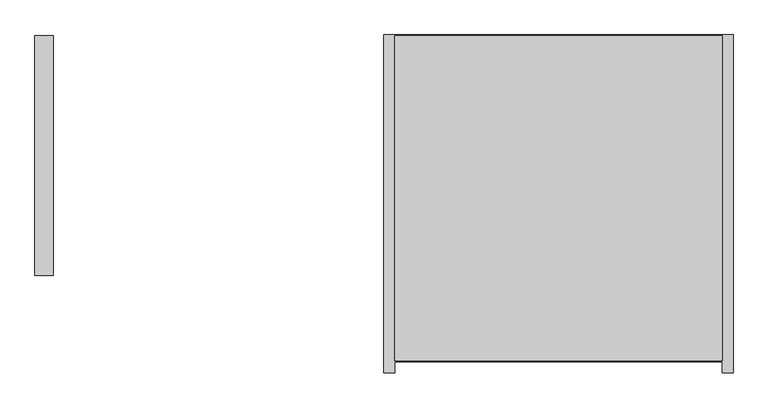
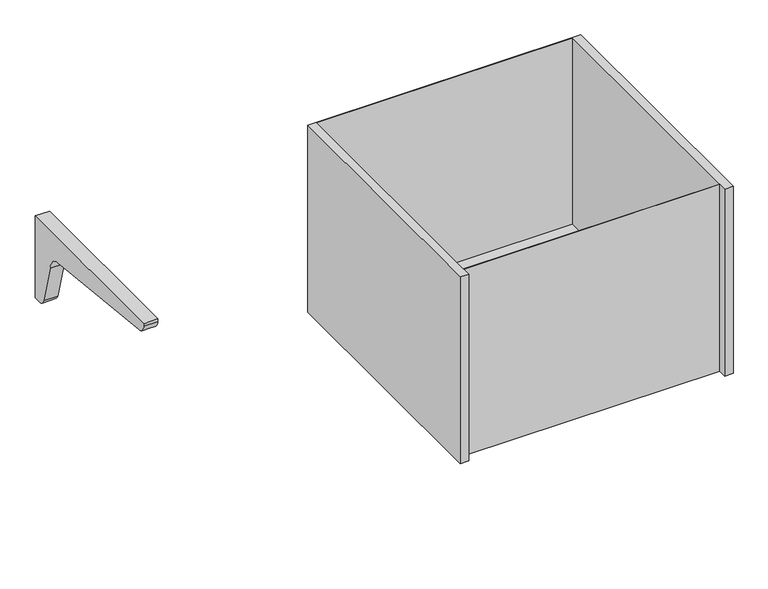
"""IFC4 building model written with IfcOpenShell, lengths in millimetres: furniture geometry."""

import ifcopenshell
import ifcopenshell.guid

model = None  # the IFC model being written
_history = None  # IfcOwnerHistory: only IFC2X3 demands one
_inside = {}  # id of a spatial element -> (the spatial element, [elements in it])
_under = {}  # id of a project, library or spatial element -> (it, [spatial elements below it])
_declared = {}  # id of a project -> (the project, [libraries it declares])
_typed = {}  # id of a type object -> (the type object, [elements of that type])
_made_of = {}  # id of a material, layer set ... -> (it, [elements and type objects made of it])


def new_model(schema):
    """Start an empty IFC model of exactly this schema.

    Asked for "IFC4X3", IfcOpenShell would pick the latest addendum, in which some entities
    have other attributes; the version numbers below select the first issue.
    IFC2X3 requires an IfcOwnerHistory on every rooted entity: one is made here for all.
    """
    global model, _history
    if schema == "IFC4X3":
        model = ifcopenshell.file(schema_version=(4, 3, 0, 0))
    else:
        model = ifcopenshell.file(schema=schema)
    _inside.clear()
    _under.clear()
    _declared.clear()
    _typed.clear()
    _made_of.clear()
    _history = None
    if model.schema == "IFC2X3":
        org = make("IfcOrganization", Name="unknown")
        user = make(
            "IfcPersonAndOrganization",
            ThePerson=make("IfcPerson", FamilyName="unknown"),
            TheOrganization=org,
        )
        app = make(
            "IfcApplication",
            ApplicationDeveloper=org,
            Version="unknown",
            ApplicationFullName="unknown",
            ApplicationIdentifier="unknown",
        )
        _history = make(
            "IfcOwnerHistory",
            OwningUser=user,
            OwningApplication=app,
            ChangeAction="ADDED",
            CreationDate=0,
        )
    return model


def make(cls, **values):
    """One entity of the class cls with the attributes given. An attribute that is None is left unset."""
    return model.create_entity(
        cls, **{name: value for name, value in values.items() if value is not None}
    )


def rooted(cls, **values):
    """An entity with a GlobalId (a new one), such as an element, a storey or a relation."""
    return make(cls, GlobalId=ifcopenshell.guid.new(), OwnerHistory=_history, **values)


def si_unit(unit_type, name, prefix=None):
    """IfcSIUnit, for example si_unit("LENGTHUNIT", "METRE", prefix="MILLI")."""
    return make("IfcSIUnit", UnitType=unit_type, Prefix=prefix, Name=name)


def assignment(units):
    """IfcUnitAssignment: the units of a project."""
    return None if units is None else make("IfcUnitAssignment", Units=units)


def point(xyz):
    """IfcCartesianPoint."""
    return None if xyz is None else make("IfcCartesianPoint", Coordinates=xyz)


def direction(xyz):
    """IfcDirection."""
    return None if xyz is None else make("IfcDirection", DirectionRatios=xyz)


def frame(location, z_axis=None, x_axis=None):
    """IfcAxis2Placement3D, a coordinate frame: its origin and axes. An axis left out is left unset."""
    return make(
        "IfcAxis2Placement3D",
        Location=point(location),
        Axis=direction(z_axis),
        RefDirection=direction(x_axis),
    )


def frame_2d(location, x_axis=None):
    """IfcAxis2Placement2D, a coordinate frame in the plane: its origin and x axis."""
    return make(
        "IfcAxis2Placement2D", Location=point(location), RefDirection=direction(x_axis)
    )


def origin():
    """The frame at (0, 0, 0) with its axes left unset."""
    return frame((0.0, 0.0, 0.0))


def place(relative_to, where):
    """IfcLocalPlacement: puts the frame where relative to a parent placement (None: the world)."""
    return make(
        "IfcLocalPlacement", PlacementRelTo=relative_to, RelativePlacement=where
    )


def context(
    kind, dimensions, precision=None, world=None, true_north=None, identifier=None
):
    """IfcGeometricRepresentationContext, for example the 3D "Model" context."""
    return make(
        "IfcGeometricRepresentationContext",
        ContextIdentifier=identifier,
        ContextType=kind,
        CoordinateSpaceDimension=dimensions,
        Precision=precision,
        WorldCoordinateSystem=world,
        TrueNorth=true_north,
    )


def project(units=None, contexts=None):
    """IfcProject with its units and contexts."""
    return rooted(
        "IfcProject",
        Name="project",
        RepresentationContexts=contexts,
        UnitsInContext=assignment(units),
    )


def spatial(cls, under=None, at=None, **own):
    """A site, building, storey or space (cls), placed at a placement, below another one or the project."""
    s = rooted(cls, ObjectPlacement=at, **own)
    if under is not None:
        _under.setdefault(under.id(), (under, []))[1].append(s)
    return s


def polyline(points):
    """IfcPolyline through the points."""
    return make("IfcPolyline", Points=[point(p) for p in points])


def circle_curve(where, radius):
    """IfcCircle in the frame where."""
    return make("IfcCircle", Position=where, Radius=radius)


def trimmed(basis, trim1, trim2, sense, master):
    """IfcTrimmedCurve: the piece of a basis curve between two trims."""
    return make(
        "IfcTrimmedCurve",
        BasisCurve=basis,
        Trim1=trim1,
        Trim2=trim2,
        SenseAgreement=sense,
        MasterRepresentation=master,
    )


def segment(curve, same_sense, transition):
    """IfcCompositeCurveSegment."""
    return make(
        "IfcCompositeCurveSegment",
        Transition=transition,
        SameSense=same_sense,
        ParentCurve=curve,
    )


def composite_curve(segments, self_intersect=None):
    """IfcCompositeCurve: segments joined end to end."""
    return make("IfcCompositeCurve", Segments=segments, SelfIntersect=self_intersect)


def outline(outer, holes=None, kind="AREA"):
    """IfcArbitraryClosedProfileDef: a profile drawn as a closed curve; with holes, ...WithVoids."""
    if holes is None:
        return make("IfcArbitraryClosedProfileDef", ProfileType=kind, OuterCurve=outer)
    return make(
        "IfcArbitraryProfileDefWithVoids",
        ProfileType=kind,
        OuterCurve=outer,
        InnerCurves=holes,
    )


def extrude(swept, where, along, depth):
    """IfcExtrudedAreaSolid: the profile swept, set in the frame where, extruded along a direction by depth."""
    return make(
        "IfcExtrudedAreaSolid",
        SweptArea=swept,
        Position=where,
        ExtrudedDirection=direction(along),
        Depth=depth,
    )


def faces_of(points, faces, orient=None, outer=None):
    """IfcFace entities. A face is a list of loops; a loop is a list of indices into points, from 0.

    orient and outer hold one flag for each loop. By default every Orientation is true, the
    first loop of a face is its IfcFaceOuterBound and the others are IfcFaceBound.
    """
    made = []
    for i, loops in enumerate(faces):
        bounds = []
        for j, loop in enumerate(loops):
            is_outer = j == 0 if outer is None else outer[i][j]
            bounds.append(
                make(
                    "IfcFaceOuterBound" if is_outer else "IfcFaceBound",
                    Bound=make("IfcPolyLoop", Polygon=[points[k] for k in loop]),
                    Orientation=True if orient is None else orient[i][j],
                )
            )
        made.append(make("IfcFace", Bounds=bounds))
    return made


def faceted_brep(points, faces, orient=None, outer=None, voids=None):
    """IfcFacetedBrep: a solid bounded by flat faces; with voids (closed shells), ...WithVoids."""
    shared = [point(p) for p in points]
    hull = make("IfcClosedShell", CfsFaces=faces_of(shared, faces, orient, outer))
    if voids is None:
        return make("IfcFacetedBrep", Outer=hull)
    return make(
        "IfcFacetedBrepWithVoids",
        Outer=hull,
        Voids=[
            make(cls, CfsFaces=faces_of(shared, fs, o, b)) for cls, fs, o, b in voids
        ],
    )


def shape(context_of_items, identifier, shape_type, items):
    """IfcShapeRepresentation: the items that make up one representation, for example the "Body"."""
    return make(
        "IfcShapeRepresentation",
        ContextOfItems=context_of_items,
        RepresentationIdentifier=identifier,
        RepresentationType=shape_type,
        Items=items,
    )


def source(mapping_origin, context_of_items, identifier, shape_type, items):
    """IfcRepresentationMap: a shape defined once, which mapped items show again and again."""
    return make(
        "IfcRepresentationMap",
        MappingOrigin=mapping_origin,
        MappedRepresentation=shape(context_of_items, identifier, shape_type, items),
    )


def transform(
    local_origin,
    x_axis=None,
    y_axis=None,
    z_axis=None,
    scale=None,
    scale2=None,
    scale3=None,
    uniform=True,
):
    """IfcCartesianTransformationOperator3D, or its non-uniform kind. x_axis, y_axis, z_axis: its Axis1, 2, 3."""
    if uniform:
        return make(
            "IfcCartesianTransformationOperator3D",
            Axis1=direction(x_axis),
            Axis2=direction(y_axis),
            LocalOrigin=point(local_origin),
            Scale=scale,
            Axis3=direction(z_axis),
        )
    return make(
        "IfcCartesianTransformationOperator3DnonUniform",
        Axis1=direction(x_axis),
        Axis2=direction(y_axis),
        LocalOrigin=point(local_origin),
        Scale=scale,
        Axis3=direction(z_axis),
        Scale2=scale2,
        Scale3=scale3,
    )


def mapped(mapping_source, mapping_target):
    """IfcMappedItem: shows the shape of a source again, moved by a transform."""
    return make(
        "IfcMappedItem", MappingSource=mapping_source, MappingTarget=mapping_target
    )


def made_of(thing, what):
    """Note that an element or type object is made of a material, layer set ...; save() writes the relation."""
    if what is not None:
        _made_of.setdefault(what.id(), (what, []))[1].append(thing)
    return thing


def element(
    cls,
    number,
    at=None,
    inside=None,
    cuts=None,
    type_object=None,
    material=None,
    context=None,
    identifier="Body",
    shape_type=None,
    held_by="IfcProductDefinitionShape",
    body=None,
    shapes=None,
    **own,
):
    """One element of the class cls, such as IfcWall. Its Tag is "e" and its number.

    at: its placement. inside: the storey or other place that contains it. cuts: it is an
    opening in that element (IfcRelVoidsElement). A single representation is given by context,
    identifier, shape_type and body (its items); several are given by shapes. held_by: the class
    of the entity that holds the representations. save() writes the other relations.
    """
    e = rooted(cls, Tag="e%d" % number, ObjectPlacement=at, **own)
    if body is not None:
        shapes = [shape(context, identifier, shape_type, body)]
    if shapes is not None:
        e.Representation = make(held_by, Representations=shapes)
    if inside is not None:
        _inside.setdefault(inside.id(), (inside, []))[1].append(e)
    if cuts is not None:
        rooted(
            "IfcRelVoidsElement", RelatingBuildingElement=cuts, RelatedOpeningElement=e
        )
    if type_object is not None:
        _typed.setdefault(type_object.id(), (type_object, []))[1].append(e)
    return made_of(e, material)


def aggregate(whole, parts):
    """IfcRelAggregates: a whole, such as a stair, and the parts it consists of."""
    return rooted("IfcRelAggregates", RelatingObject=whole, RelatedObjects=parts)


def save(model, path):
    """Write the relations noted so far, then the file.

    IfcRelAggregates (storeys below a building ...), IfcRelContainedInSpatialStructure (elements
    in a storey), IfcRelDefinesByType, IfcRelAssociatesMaterial and IfcRelDeclares: one each for
    every whole, place, type object, material and project.
    """
    for whole, parts in _under.values():
        aggregate(whole, parts)
    for where, things in _inside.values():
        rooted(
            "IfcRelContainedInSpatialStructure",
            RelatedElements=things,
            RelatingStructure=where,
        )
    for kind, things in _typed.values():
        rooted("IfcRelDefinesByType", RelatedObjects=things, RelatingType=kind)
    for what, things in _made_of.values():
        rooted("IfcRelAssociatesMaterial", RelatedObjects=things, RelatingMaterial=what)
    for by, libraries in _declared.values():
        rooted("IfcRelDeclares", RelatingContext=by, RelatedDefinitions=libraries)
    model.write(path)


def furniture_067cfaca(model_context):
    return source(origin(), model_context, "Body", "SolidModel", [
        extrude(outline(composite_curve([segment(polyline([(166.6875, 914.4), (166.6875, 720.725), (153.9875, 720.725)]), True, "CONTINUOUS"), segment(trimmed(circle_curve(frame_2d((151.6706081, 737.8871622)), 17.3178462), [point((153.9875, 720.725))], [point((134.9375, 733.425))], False, "CARTESIAN"), True, "CONTINUOUS"), segment(polyline([(134.9375, 733.425), (109.5375, 825.5)]), True, "CONTINUOUS"), segment(trimmed(circle_curve(frame_2d((74.1795455, 821.8920455)), 35.5415572), [point((109.5375, 825.5))], [point((77.7875, 857.25))], True, "CARTESIAN"), True, "CONTINUOUS"), segment(polyline([(77.7875, 857.25), (-233.3625, 889.0)]), True, "CONTINUOUS"), segment(trimmed(circle_curve(frame_2d((-233.3625, 908.05)), 19.05), [point((-233.3625, 889.0))], [point((-252.4125, 908.05))], False, "CARTESIAN"), True, "CONTINUOUS"), segment(polyline([(-252.4125, 908.05), (-252.4125, 914.4), (166.6875, 914.4)]), True, "CONTINUOUS")], self_intersect=False)), frame((-914.4, 0.0, 0.0), z_axis=(1.0, 0.0, 0.0), x_axis=(0.0, 1.0, 0.0)), (0.0, 0.0, 1.0), 31.75),
        faceted_brep([(-304.8, 168.275, 914.4), (-304.8, -422.275, 914.4), (-285.75, -422.275, 914.4), (-285.75, -403.225, 914.4), (285.75, -403.225, 914.4), (285.75, -422.275, 914.4), (304.8, -422.275, 914.4), (304.8, 168.275, 914.4), (285.75, -401.6375, 914.4), (-285.75, -401.6375, 914.4), (-285.75, 166.6875, 914.4), (285.75, 166.6875, 914.4), (-285.75, -403.225, 473.075), (285.75, -403.225, 473.075), (-285.75, -422.275, 473.075), (-304.8, -422.275, 473.075), (-304.8, 168.275, 473.075), (304.8, 168.275, 473.075), (304.8, -422.275, 473.075), (285.75, -422.275, 473.075), (-285.75, -401.6375, 474.6625), (285.75, -401.6375, 474.6625), (285.75, 166.6875, 474.6625), (-285.75, 166.6875, 474.6625)], [[[0, 1, 2, 3, 4, 5, 6, 7], [8, 9, 10, 11]], [[4, 3, 12, 13]], [[13, 12, 14, 15, 16, 17, 18, 19]], [[0, 7, 17, 16]], [[20, 21, 22, 23]], [[9, 8, 21, 20]], [[21, 8, 11, 22]], [[19, 5, 4, 13]], [[6, 5, 19, 18]], [[7, 6, 18, 17]], [[9, 20, 23, 10]], [[2, 14, 12, 3]], [[1, 0, 16, 15]], [[2, 1, 15, 14]], [[11, 10, 23, 22]]]),
    ])


if __name__ == "__main__":
    model = new_model("IFC4")
    model_context = context("Model", 3, world=origin())
    ifc_project = project(units=[si_unit("LENGTHUNIT", "METRE", prefix="MILLI")], contexts=[model_context])
    site = spatial("IfcSite", under=ifc_project)
    building = spatial("IfcBuilding", under=site)
    placement = place(None, origin())
    furniture_shape = furniture_067cfaca(model_context)
    element("IfcFurniture", 1, ObjectType="HermanMiller_CoStruc_C2513_SinkUnitForStorage : 19\"H x 24\"D x 48\"W", at=placement, inside=building, context=model_context, shape_type="MappedRepresentation", body=[
        mapped(furniture_shape, transform((0.0, 0.0, 0.0), x_axis=(1.0, 0.0, 0.0), y_axis=(0.0, 1.0, 0.0), z_axis=(0.0, 0.0, 1.0))),
    ])
    save(model, "model.ifc")
